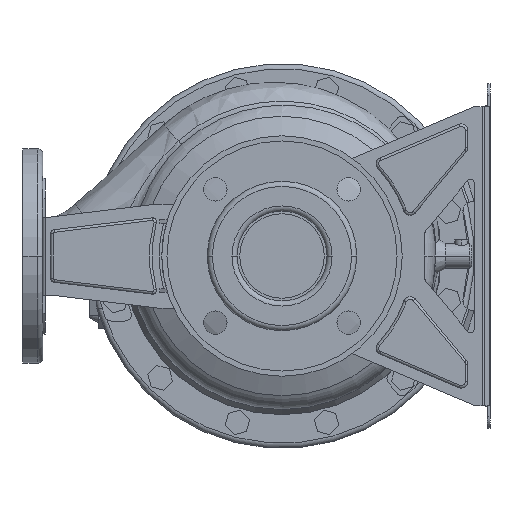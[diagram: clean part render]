
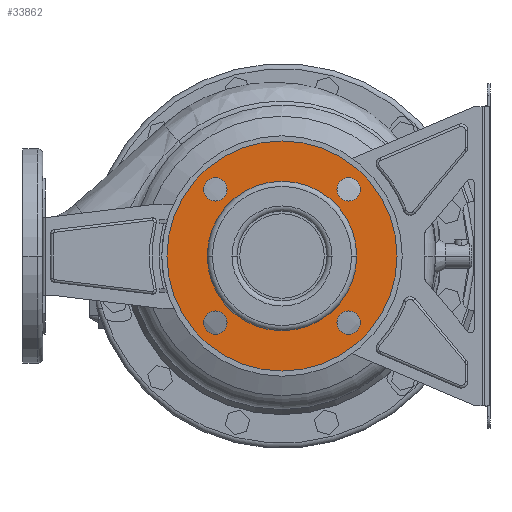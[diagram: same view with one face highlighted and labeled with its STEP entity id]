
A CAD part, front view. The second image highlights one B-rep face of the part: STEP entity #33862.
In plain terms, the highlighted planar face has unit normal (0, -1, 0) as drawn and (-1, 0, 0) by its records, which use the part's own axes.
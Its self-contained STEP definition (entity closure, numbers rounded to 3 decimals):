
#33195=CARTESIAN_POINT('',(12.,0.,0.));
#33196=DIRECTION('',(-1.,0.,0.));
#33197=DIRECTION('',(0.,1.,0.));
#33198=AXIS2_PLACEMENT_3D('',#33195,#33196,#33197);
#33203=CARTESIAN_POINT('',(12.,0.,0.));
#33204=DIRECTION('',(1.,0.,0.));
#33205=DIRECTION('',(0.,1.,0.));
#33206=AXIS2_PLACEMENT_3D('',#33203,#33204,#33205);
#33211=CARTESIAN_POINT('',(12.,-51.265,51.265));
#33212=DIRECTION('',(1.,0.,0.));
#33213=DIRECTION('',(0.,1.,0.));
#33214=AXIS2_PLACEMENT_3D('',#33211,#33212,#33213);
#33219=CARTESIAN_POINT('',(12.,-51.265,51.265));
#33220=DIRECTION('',(1.,0.,0.));
#33221=DIRECTION('',(0.,-1.,0.));
#33222=AXIS2_PLACEMENT_3D('',#33219,#33220,#33221);
#33227=CARTESIAN_POINT('',(12.,-51.265,-51.265));
#33228=DIRECTION('',(1.,0.,0.));
#33229=DIRECTION('',(0.,0.,1.));
#33230=AXIS2_PLACEMENT_3D('',#33227,#33228,#33229);
#33235=CARTESIAN_POINT('',(12.,-51.265,-51.265));
#33236=DIRECTION('',(1.,0.,0.));
#33237=DIRECTION('',(0.,0.,-1.));
#33238=AXIS2_PLACEMENT_3D('',#33235,#33236,#33237);
#33243=CARTESIAN_POINT('',(12.,51.265,-51.265));
#33244=DIRECTION('',(1.,0.,0.));
#33245=DIRECTION('',(0.,-1.,0.));
#33246=AXIS2_PLACEMENT_3D('',#33243,#33244,#33245);
#33251=CARTESIAN_POINT('',(12.,51.265,-51.265));
#33252=DIRECTION('',(1.,0.,0.));
#33253=DIRECTION('',(0.,1.,0.));
#33254=AXIS2_PLACEMENT_3D('',#33251,#33252,#33253);
#33259=CARTESIAN_POINT('',(12.,51.265,51.265));
#33260=DIRECTION('',(1.,0.,0.));
#33261=DIRECTION('',(0.,0.,-1.));
#33262=AXIS2_PLACEMENT_3D('',#33259,#33260,#33261);
#33267=CARTESIAN_POINT('',(12.,51.265,51.265));
#33268=DIRECTION('',(1.,0.,0.));
#33269=DIRECTION('',(0.,0.,1.));
#33270=AXIS2_PLACEMENT_3D('',#33267,#33268,#33269);
#33275=CARTESIAN_POINT('',(12.,0.,0.));
#33276=DIRECTION('',(1.,0.,0.));
#33277=DIRECTION('',(0.,1.,0.));
#33278=AXIS2_PLACEMENT_3D('',#33275,#33276,#33277);
#33297=CARTESIAN_POINT('',(12.,0.,0.));
#33298=DIRECTION('',(-1.,0.,0.));
#33299=DIRECTION('',(0.,1.,0.));
#33300=AXIS2_PLACEMENT_3D('',#33297,#33298,#33299);
#33462=CARTESIAN_POINT('',(12.,88.5,0.));
#33464=VERTEX_POINT('',#33462);
#33465=CARTESIAN_POINT('',(12.,57.5,0.));
#33467=VERTEX_POINT('',#33465);
#33494=CARTESIAN_POINT('',(12.,-88.5,0.));
#33496=VERTEX_POINT('',#33494);
#33497=CARTESIAN_POINT('',(12.,-57.5,0.));
#33499=VERTEX_POINT('',#33497);
#33509=CARTESIAN_POINT('',(12.,-42.265,51.265));
#33510=CARTESIAN_POINT('',(12.,-60.265,51.265));
#33511=VERTEX_POINT('',#33509);
#33512=VERTEX_POINT('',#33510);
#33517=CARTESIAN_POINT('',(12.,-51.265,-42.265));
#33518=CARTESIAN_POINT('',(12.,-51.265,-60.265));
#33519=VERTEX_POINT('',#33517);
#33520=VERTEX_POINT('',#33518);
#33525=CARTESIAN_POINT('',(12.,42.265,-51.265));
#33526=CARTESIAN_POINT('',(12.,60.265,-51.265));
#33527=VERTEX_POINT('',#33525);
#33528=VERTEX_POINT('',#33526);
#33533=CARTESIAN_POINT('',(12.,51.265,42.265));
#33534=CARTESIAN_POINT('',(12.,51.265,60.265));
#33535=VERTEX_POINT('',#33533);
#33536=VERTEX_POINT('',#33534);
#33823=CARTESIAN_POINT('',(12.,0.,0.));
#33824=DIRECTION('',(1.,0.,0.));
#33825=DIRECTION('',(0.,-1.,0.));
#33826=AXIS2_PLACEMENT_3D('',#33823,#33824,#33825);
#33827=PLANE('',#33826);
#33828=ORIENTED_EDGE('',*,*,#33816,.F.);
#33829=ORIENTED_EDGE('',*,*,#33805,.T.);
#33830=EDGE_LOOP('',(#33828,#33829));
#33831=FACE_OUTER_BOUND('',#33830,.F.);
#33833=ORIENTED_EDGE('',*,*,#33832,.F.);
#33835=ORIENTED_EDGE('',*,*,#33834,.T.);
#33836=EDGE_LOOP('',(#33833,#33835));
#33837=FACE_BOUND('',#33836,.F.);
#33839=ORIENTED_EDGE('',*,*,#33838,.F.);
#33841=ORIENTED_EDGE('',*,*,#33840,.F.);
#33842=EDGE_LOOP('',(#33839,#33841));
#33843=FACE_BOUND('',#33842,.F.);
#33845=ORIENTED_EDGE('',*,*,#33844,.F.);
#33847=ORIENTED_EDGE('',*,*,#33846,.F.);
#33848=EDGE_LOOP('',(#33845,#33847));
#33849=FACE_BOUND('',#33848,.F.);
#33851=ORIENTED_EDGE('',*,*,#33850,.F.);
#33853=ORIENTED_EDGE('',*,*,#33852,.F.);
#33854=EDGE_LOOP('',(#33851,#33853));
#33855=FACE_BOUND('',#33854,.F.);
#33857=ORIENTED_EDGE('',*,*,#33856,.F.);
#33859=ORIENTED_EDGE('',*,*,#33858,.F.);
#33860=EDGE_LOOP('',(#33857,#33859));
#33861=FACE_BOUND('',#33860,.F.);
#33199=CIRCLE('',#33198,88.5);
#33207=CIRCLE('',#33206,88.5);
#33215=CIRCLE('',#33214,9.);
#33223=CIRCLE('',#33222,9.);
#33231=CIRCLE('',#33230,9.);
#33239=CIRCLE('',#33238,9.);
#33247=CIRCLE('',#33246,9.);
#33255=CIRCLE('',#33254,9.);
#33263=CIRCLE('',#33262,9.);
#33271=CIRCLE('',#33270,9.);
#33279=CIRCLE('',#33278,57.5);
#33301=CIRCLE('',#33300,57.5);
#33805=EDGE_CURVE('',#33464,#33496,#33207,.T.);
#33816=EDGE_CURVE('',#33464,#33496,#33199,.T.);
#33832=EDGE_CURVE('',#33467,#33499,#33279,.T.);
#33834=EDGE_CURVE('',#33467,#33499,#33301,.T.);
#33838=EDGE_CURVE('',#33511,#33512,#33215,.T.);
#33840=EDGE_CURVE('',#33512,#33511,#33223,.T.);
#33844=EDGE_CURVE('',#33519,#33520,#33231,.T.);
#33846=EDGE_CURVE('',#33520,#33519,#33239,.T.);
#33850=EDGE_CURVE('',#33527,#33528,#33247,.T.);
#33852=EDGE_CURVE('',#33528,#33527,#33255,.T.);
#33856=EDGE_CURVE('',#33535,#33536,#33263,.T.);
#33858=EDGE_CURVE('',#33536,#33535,#33271,.T.);
#33862=ADVANCED_FACE('',(#33831,#33837,#33843,#33849,#33855,#33861),#33827,.F.);
